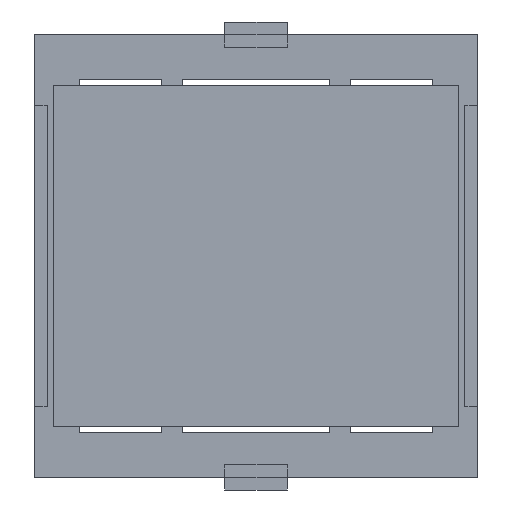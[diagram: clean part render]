
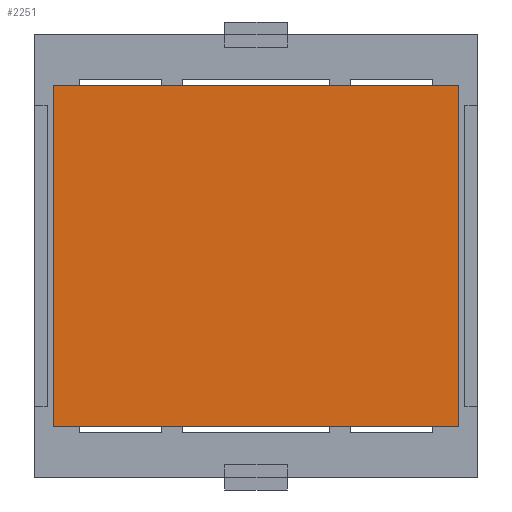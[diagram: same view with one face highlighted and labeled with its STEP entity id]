
A CAD part, front view. The second image highlights one B-rep face of the part: STEP entity #2251.
In plain terms, the highlighted planar face has unit normal (0, -1, 0).
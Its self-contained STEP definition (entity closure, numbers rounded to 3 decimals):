
#197 = DIRECTION ( 'NONE',  ( 0., 0., -1. ) ) ;
#360 = CARTESIAN_POINT ( 'NONE',  ( -16.129, -0.127, -13.589 ) ) ;
#392 = DIRECTION ( 'NONE',  ( 0., 0., 1. ) ) ;
#582 = LINE ( 'NONE', #5230, #3504 ) ;
#646 = CARTESIAN_POINT ( 'NONE',  ( 16.129, -0.127, 13.589 ) ) ;
#672 = CARTESIAN_POINT ( 'NONE',  ( -16.129, -0.127, -13.589 ) ) ;
#871 = EDGE_CURVE ( 'NONE', #1745, #2692, #3002, .T. ) ;
#1062 = ORIENTED_EDGE ( 'NONE', *, *, #3144, .F. ) ;
#1548 = LINE ( 'NONE', #3058, #5960 ) ;
#1665 = VERTEX_POINT ( 'NONE', #3455 ) ;
#1745 = VERTEX_POINT ( 'NONE', #2191 ) ;
#1876 = VECTOR ( 'NONE', #5818, 1000. ) ;
#1917 = DIRECTION ( 'NONE',  ( 0., 1., 0. ) ) ;
#2038 = EDGE_CURVE ( 'NONE', #1665, #3524, #5478, .T. ) ;
#2191 = CARTESIAN_POINT ( 'NONE',  ( -16.129, -0.127, 13.589 ) ) ;
#2219 = EDGE_LOOP ( 'NONE', ( #1062, #5069, #3467, #4658 ) ) ;
#2251 = ADVANCED_FACE ( 'NONE', ( #2646 ), #4588, .F. ) ;
#2646 = FACE_OUTER_BOUND ( 'NONE', #2219, .T. ) ;
#2692 = VERTEX_POINT ( 'NONE', #646 ) ;
#2964 = CARTESIAN_POINT ( 'NONE',  ( -16.129, -0.127, 13.589 ) ) ;
#3002 = LINE ( 'NONE', #2964, #1876 ) ;
#3058 = CARTESIAN_POINT ( 'NONE',  ( 16.129, -0.127, -13.589 ) ) ;
#3144 = EDGE_CURVE ( 'NONE', #3524, #1745, #582, .T. ) ;
#3238 = EDGE_CURVE ( 'NONE', #2692, #1665, #1548, .T. ) ;
#3455 = CARTESIAN_POINT ( 'NONE',  ( 16.129, -0.127, -13.589 ) ) ;
#3467 = ORIENTED_EDGE ( 'NONE', *, *, #3238, .F. ) ;
#3504 = VECTOR ( 'NONE', #4895, 1000. ) ;
#3524 = VERTEX_POINT ( 'NONE', #360 ) ;
#3767 = AXIS2_PLACEMENT_3D ( 'NONE', #5225, #1917, #392 ) ;
#4443 = DIRECTION ( 'NONE',  ( -1., 0., 0. ) ) ;
#4588 = PLANE ( 'NONE',  #3767 ) ;
#4658 = ORIENTED_EDGE ( 'NONE', *, *, #871, .F. ) ;
#4895 = DIRECTION ( 'NONE',  ( 0., 0., 1. ) ) ;
#5069 = ORIENTED_EDGE ( 'NONE', *, *, #2038, .F. ) ;
#5225 = CARTESIAN_POINT ( 'NONE',  ( -16.129, -0.127, 13.589 ) ) ;
#5230 = CARTESIAN_POINT ( 'NONE',  ( -16.129, -0.127, -13.589 ) ) ;
#5478 = LINE ( 'NONE', #672, #5946 ) ;
#5818 = DIRECTION ( 'NONE',  ( 1., 0., 0. ) ) ;
#5946 = VECTOR ( 'NONE', #4443, 1000. ) ;
#5960 = VECTOR ( 'NONE', #197, 1000. ) ;
